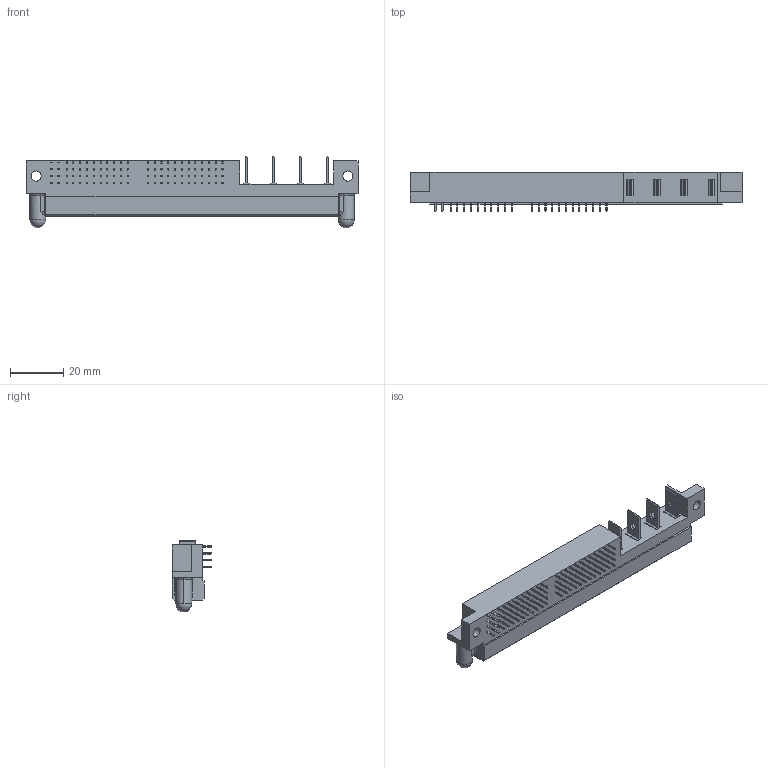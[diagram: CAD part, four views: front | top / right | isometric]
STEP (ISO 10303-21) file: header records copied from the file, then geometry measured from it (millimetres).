
FILE_DESCRIPTION (( 'STEP AP214' ), '1' );
FILE_NAME ('9391-A4H20S08CB30DA-A036.STEP', '2021-03-15T08:02:50', ( '' ), ( '' ), 'SwSTEP 2.0', 'SolidWorks 2011', '' );
FILE_SCHEMA (( 'AUTOMOTIVE_DESIGN' ));
Length unit declared in the file: millimetre
Products named in the file (1): 9391-A4H20S08CB30DA-A036
Bounding box: 124.46 x 14.82 x 26.92 mm (x, y, z)
Volume: 23805.5 mm3; surface area: 10057.8 mm2
Topology: 1 solids, 3 shells, 1747 faces, 4727 edges, 3137 vertices
Faces by surface type: plane 1610, cylinder 126, bspline 4, sphere 4, torus 3
Entity records: 73271 total; most frequent: CARTESIAN_POINT 9867, ORIENTED_EDGE 9424, DIRECTION 8420, EDGE_CURVE 4712, VECTOR 4436, LINE 4436, VERTEX_POINT 3129, AXIS2_PLACEMENT_3D 1992
